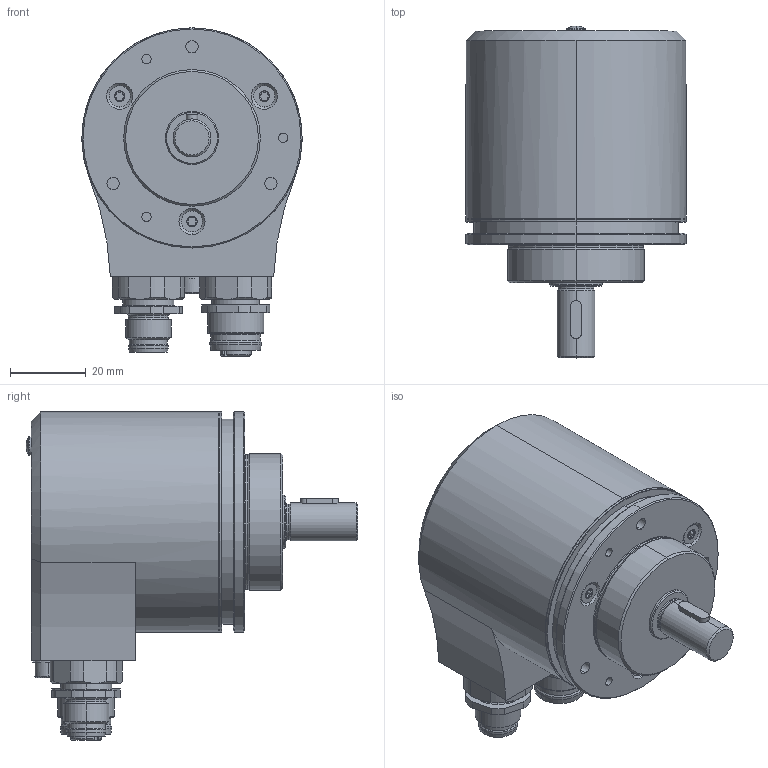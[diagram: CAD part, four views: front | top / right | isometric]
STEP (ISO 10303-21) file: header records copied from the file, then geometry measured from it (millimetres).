
FILE_DESCRIPTION (( 'STEP AP203' ), '1' );
FILE_NAME ('CAD_STP_400_0127.STEP', '2024-06-13T10:21:38', ( '' ), ( '' ), 'SwSTEP 2.0', 'SolidWorks 2022', '' );
FILE_SCHEMA (( 'CONFIG_CONTROL_DESIGN' ));
Length unit declared in the file: millimetre
Products named in the file (1): CAD_STP_400_0127
Bounding box: 58 x 87.4 x 86.48 mm (x, y, z)
Volume: 178901.4 mm3; surface area: 23040.1 mm2
Topology: 1 solids, 1 shells, 351 faces, 842 edges, 527 vertices
Faces by surface type: cylinder 152, plane 99, cone 74, torus 24, sphere 2
Entity records: 10652 total; most frequent: CARTESIAN_POINT 2285, DIRECTION 1829, ORIENTED_EDGE 1684, EDGE_CURVE 842, AXIS2_PLACEMENT_3D 739, VERTEX_POINT 527, CIRCLE 387, EDGE_LOOP 385
